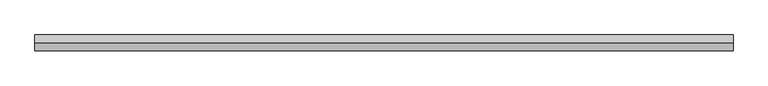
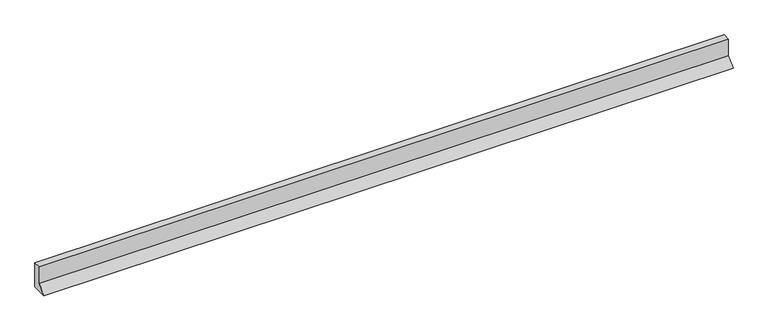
"""IFC4 building model written with IfcOpenShell, lengths in millimetres: plate geometry, ATELIERS 3S_EPURE CDB 200_HORIZONTAL : AZURO."""

from ifc_helpers import new_model, si_unit, frame, origin, place, context, project, spatial, polyline, outline, extrude, source, transform, mapped, element, save


def plate_e6411eb0(model_context):
    return source(origin(), model_context, "Body", "SweptSolid", [
        extrude(outline(polyline([(-30.0201339, 31.7071152), (-30.0201339, 100.0), (0.0, 100.0), (0.0, 0.0), (-61.727249, 0.0), (-30.0201339, 31.7071152)])), frame((-1352.0, 0.0, 0.0), z_axis=(1.0, 0.0, 0.0), x_axis=(0.0, 1.0, 0.0)), (0.0, 0.0, 1.0), 2704.0),
    ])


if __name__ == "__main__":
    model = new_model("IFC4")
    model_context = context("Model", 3, world=origin())
    ifc_project = project(units=[si_unit("LENGTHUNIT", "METRE", prefix="MILLI")], contexts=[model_context])
    site = spatial("IfcSite", under=ifc_project)
    building = spatial("IfcBuilding", under=site)
    placement = place(None, origin())
    plate_shape = plate_e6411eb0(model_context)
    element("IfcPlate", 1, ObjectType="ATELIERS 3S_EPURE CDB 200_HORIZONTAL : AZURO", at=placement, inside=building, context=model_context, shape_type="MappedRepresentation", body=[
        mapped(plate_shape, transform((0.0, 0.0, 0.0), x_axis=(1.0, 0.0, 0.0), y_axis=(0.0, 1.0, 0.0), z_axis=(0.0, 0.0, 1.0))),
    ])
    save(model, "model.ifc")
